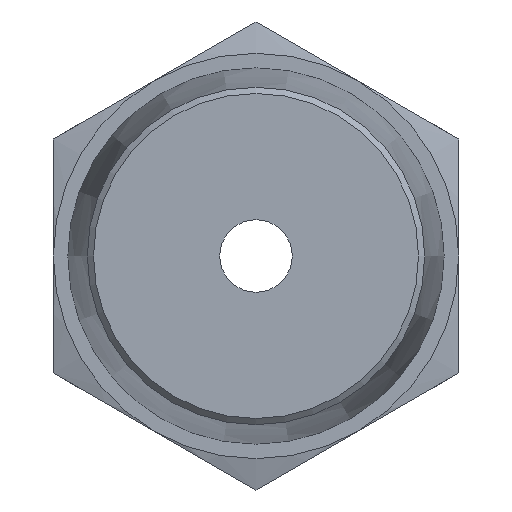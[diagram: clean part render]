
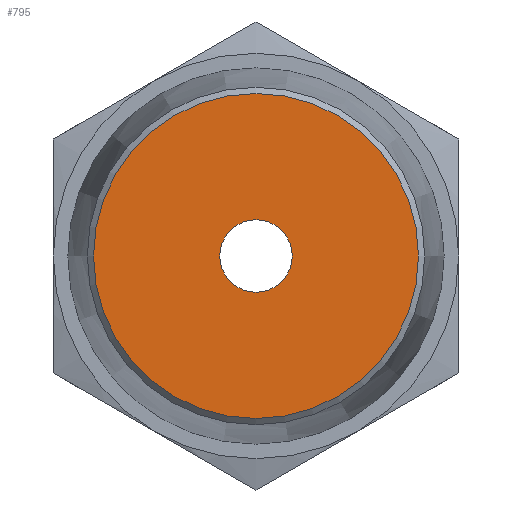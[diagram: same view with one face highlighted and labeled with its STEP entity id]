
A CAD part, front view. The second image highlights one B-rep face of the part: STEP entity #795.
In plain terms, the highlighted planar face has unit normal (0, -1, 0).
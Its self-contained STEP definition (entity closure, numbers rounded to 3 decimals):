
#15=FACE_BOUND('',#144,.T.);
#94=FACE_OUTER_BOUND('',#143,.T.);
#143=EDGE_LOOP('',(#639));
#144=EDGE_LOOP('',(#640));
#188=CIRCLE('',#880,5.613);
#190=CIRCLE('',#884,1.25);
#378=VERTEX_POINT('',#1349);
#380=VERTEX_POINT('',#1357);
#473=EDGE_CURVE('',#378,#378,#188,.T.);
#476=EDGE_CURVE('',#380,#380,#190,.T.);
#639=ORIENTED_EDGE('',*,*,#473,.F.);
#640=ORIENTED_EDGE('',*,*,#476,.T.);
#763=PLANE('',#883);
#795=ADVANCED_FACE('',(#94,#15),#763,.T.);
#880=AXIS2_PLACEMENT_3D('',#1351,#1053,#1054);
#883=AXIS2_PLACEMENT_3D('',#1356,#1060,#1061);
#884=AXIS2_PLACEMENT_3D('',#1358,#1062,#1063);
#1053=DIRECTION('center_axis',(0.,1.,0.));
#1054=DIRECTION('ref_axis',(-1.,0.,0.));
#1060=DIRECTION('center_axis',(0.,-1.,0.));
#1061=DIRECTION('ref_axis',(0.,0.,-1.));
#1062=DIRECTION('center_axis',(0.,1.,0.));
#1063=DIRECTION('ref_axis',(1.,0.,0.));
#1349=CARTESIAN_POINT('',(5.613,-9.5,0.));
#1351=CARTESIAN_POINT('Origin',(0.,-9.5,0.));
#1356=CARTESIAN_POINT('Origin',(5.813,-9.5,0.));
#1357=CARTESIAN_POINT('',(-1.25,-9.5,0.));
#1358=CARTESIAN_POINT('Origin',(0.,-9.5,0.));
